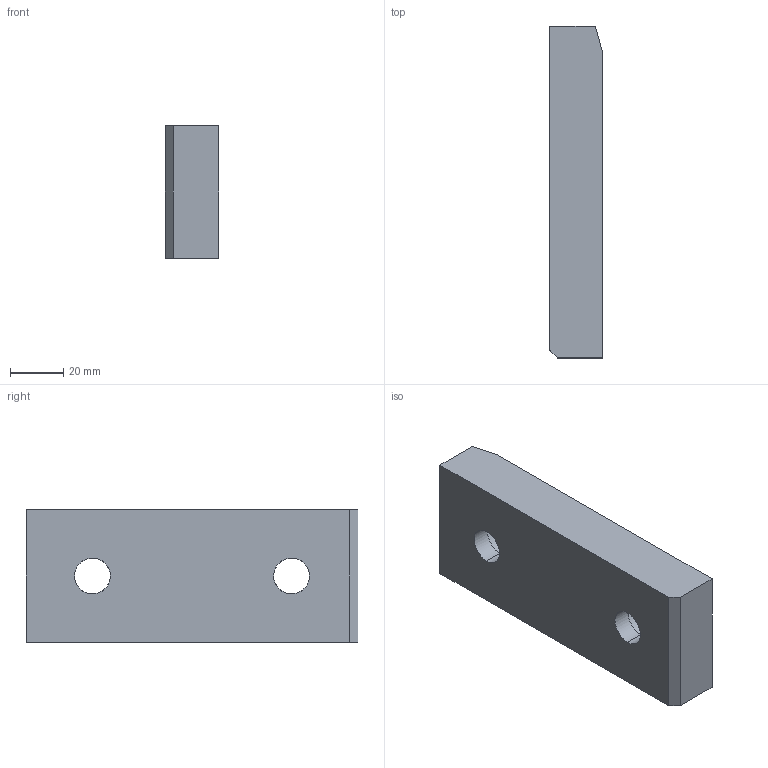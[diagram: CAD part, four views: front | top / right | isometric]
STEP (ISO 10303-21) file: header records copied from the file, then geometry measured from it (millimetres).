
FILE_DESCRIPTION(('CATIA V5 STEP Exchange'),'2;1');
FILE_NAME('C:\Users\borellobunino\Desktop\3D X SITO CF\A915\GSB_OILLESS_G22501050125\A915-50X125.stp','2019-07-14T12:36:49+00:00',('none'),('none'),'CATIA Version 5 Release 20 GA (IN-10)','CATIA V5 STEP AP203','none');
FILE_SCHEMA(('CONFIG_CONTROL_DESIGN'));
Length unit declared in the file: millimetre
Products named in the file (1): A915-50X125
Bounding box: 20 x 125 x 50 mm (x, y, z)
Volume: 113673.1 mm3; surface area: 20760.6 mm2
Topology: 1 solids, 1 shells, 23 faces, 73 edges, 54 vertices
Faces by surface type: plane 10, cylinder 9, torus 4
Entity records: 1057 total; most frequent: CARTESIAN_POINT 375, ORIENTED_EDGE 146, DIRECTION 103, EDGE_CURVE 73, AXIS2_PLACEMENT_3D 54, VERTEX_POINT 54, CIRCLE 30, EDGE_LOOP 29
